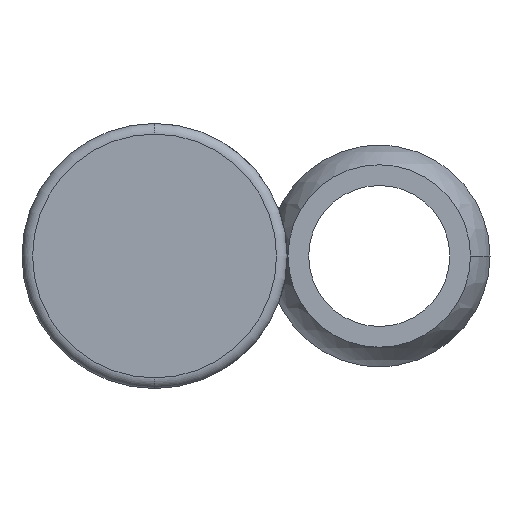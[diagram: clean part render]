
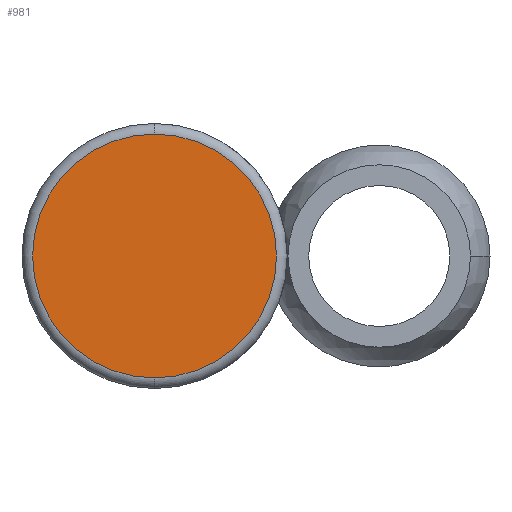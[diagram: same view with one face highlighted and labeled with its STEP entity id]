
A CAD part, front view. The second image highlights one B-rep face of the part: STEP entity #981.
In plain terms, the highlighted planar face has unit normal (0, -1, 0).
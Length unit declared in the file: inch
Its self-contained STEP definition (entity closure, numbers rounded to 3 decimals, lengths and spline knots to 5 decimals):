
#75 = AXIS2_PLACEMENT_3D ( 'NONE', #856, #860, #108 ) ;
#92 = EDGE_CURVE ( 'NONE', #422, #921, #1114, .T. ) ;
#108 = DIRECTION ( 'NONE',  ( 0., 0., 1. ) ) ;
#118 = CARTESIAN_POINT ( 'NONE',  ( 0., -1.26, -0.34402 ) ) ;
#157 = DIRECTION ( 'NONE',  ( 0., 0., 1. ) ) ;
#184 = ORIENTED_EDGE ( 'NONE', *, *, #1187, .T. ) ;
#365 = FACE_OUTER_BOUND ( 'NONE', #554, .T. ) ;
#415 = PLANE ( 'NONE',  #75 ) ;
#422 = VERTEX_POINT ( 'NONE', #118 ) ;
#431 = AXIS2_PLACEMENT_3D ( 'NONE', #1190, #991, #157 ) ;
#456 = DIRECTION ( 'NONE',  ( 0., 0., 1. ) ) ;
#553 = DIRECTION ( 'NONE',  ( 0., -1., 0. ) ) ;
#554 = EDGE_LOOP ( 'NONE', ( #184, #1234 ) ) ;
#619 = CARTESIAN_POINT ( 'NONE',  ( 0., -1.26, 0.34402 ) ) ;
#630 = CIRCLE ( 'NONE', #753, 0.34402 ) ;
#753 = AXIS2_PLACEMENT_3D ( 'NONE', #1093, #553, #456 ) ;
#856 = CARTESIAN_POINT ( 'NONE',  ( 0., -1.26, 0. ) ) ;
#860 = DIRECTION ( 'NONE',  ( 0., 1., 0. ) ) ;
#921 = VERTEX_POINT ( 'NONE', #619 ) ;
#981 = ADVANCED_FACE ( 'NONE', ( #365 ), #415, .F. ) ;
#991 = DIRECTION ( 'NONE',  ( 0., -1., 0. ) ) ;
#1093 = CARTESIAN_POINT ( 'NONE',  ( 0., -1.26, 0. ) ) ;
#1114 = CIRCLE ( 'NONE', #431, 0.34402 ) ;
#1187 = EDGE_CURVE ( 'NONE', #921, #422, #630, .T. ) ;
#1190 = CARTESIAN_POINT ( 'NONE',  ( 0., -1.26, 0. ) ) ;
#1234 = ORIENTED_EDGE ( 'NONE', *, *, #92, .T. ) ;
